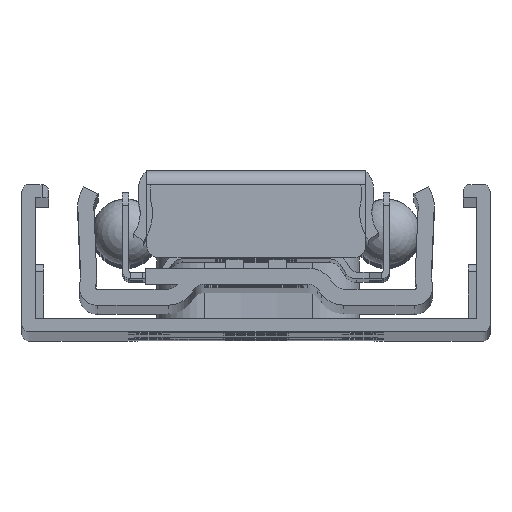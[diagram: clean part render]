
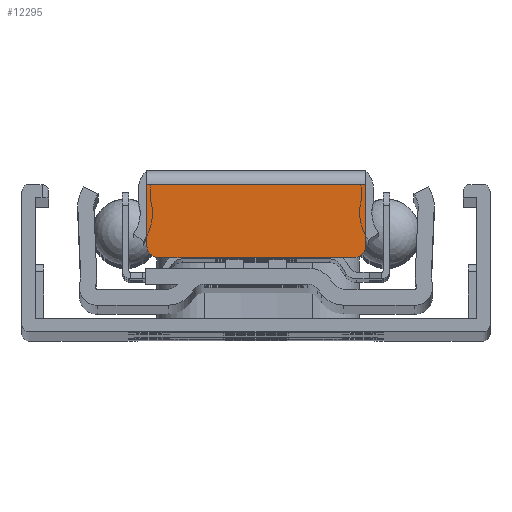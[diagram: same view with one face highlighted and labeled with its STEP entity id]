
A CAD part, top view. The second image highlights one B-rep face of the part: STEP entity #12295.
In plain terms, the highlighted planar face has unit normal (0, 0, 1).
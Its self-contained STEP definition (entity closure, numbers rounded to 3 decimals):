
#663=PLANE('',#13537);
#1267=FACE_OUTER_BOUND('',#2008,.T.);
#2008=EDGE_LOOP('',(#11294,#11295,#11296,#11297,#11298,#11299));
#3199=LINE('',#20978,#4394);
#3200=LINE('',#20981,#4395);
#3201=LINE('',#20985,#4396);
#3202=LINE('',#20988,#4397);
#4394=VECTOR('',#17063,10.);
#4395=VECTOR('',#17066,10.);
#4396=VECTOR('',#17069,10.);
#4397=VECTOR('',#17072,10.);
#4999=CIRCLE('',#13538,1.);
#5000=CIRCLE('',#13539,1.);
#6149=VERTEX_POINT('',#20974);
#6150=VERTEX_POINT('',#20976);
#6151=VERTEX_POINT('',#20980);
#6152=VERTEX_POINT('',#20982);
#6153=VERTEX_POINT('',#20984);
#6154=VERTEX_POINT('',#20986);
#7883=EDGE_CURVE('',#6150,#6149,#3199,.T.);
#7884=EDGE_CURVE('',#6150,#6151,#3200,.T.);
#7885=EDGE_CURVE('',#6152,#6151,#4999,.T.);
#7886=EDGE_CURVE('',#6152,#6153,#3201,.T.);
#7887=EDGE_CURVE('',#6154,#6153,#5000,.T.);
#7888=EDGE_CURVE('',#6149,#6154,#3202,.T.);
#11294=ORIENTED_EDGE('',*,*,#7883,.F.);
#11295=ORIENTED_EDGE('',*,*,#7884,.T.);
#11296=ORIENTED_EDGE('',*,*,#7885,.F.);
#11297=ORIENTED_EDGE('',*,*,#7886,.T.);
#11298=ORIENTED_EDGE('',*,*,#7887,.F.);
#11299=ORIENTED_EDGE('',*,*,#7888,.F.);
#12295=ADVANCED_FACE('',(#1267),#663,.T.);
#13537=AXIS2_PLACEMENT_3D('',#20979,#17064,#17065);
#13538=AXIS2_PLACEMENT_3D('',#20983,#17067,#17068);
#13539=AXIS2_PLACEMENT_3D('',#20987,#17070,#17071);
#17063=DIRECTION('',(-1.,0.,0.));
#17064=DIRECTION('center_axis',(0.,0.,1.));
#17065=DIRECTION('ref_axis',(1.,0.,0.));
#17066=DIRECTION('',(0.,1.,0.));
#17067=DIRECTION('center_axis',(0.,0.,-1.));
#17068=DIRECTION('ref_axis',(0.707,0.707,0.));
#17069=DIRECTION('',(-1.,0.,0.));
#17070=DIRECTION('center_axis',(0.,0.,-1.));
#17071=DIRECTION('ref_axis',(-0.707,0.707,0.));
#17072=DIRECTION('',(0.,1.,0.));
#20974=CARTESIAN_POINT('',(5.11,-4.766,399.));
#20976=CARTESIAN_POINT('',(21.512,-4.766,399.));
#20978=CARTESIAN_POINT('',(17.427,-4.766,399.));
#20979=CARTESIAN_POINT('Origin',(21.512,-5.766,399.));
#20980=CARTESIAN_POINT('',(21.512,-0.266,399.));
#20981=CARTESIAN_POINT('',(21.512,-5.766,399.));
#20982=CARTESIAN_POINT('',(20.512,0.734,399.));
#20983=CARTESIAN_POINT('Origin',(20.512,-0.266,399.));
#20984=CARTESIAN_POINT('',(6.11,0.734,399.));
#20985=CARTESIAN_POINT('',(21.512,0.734,399.));
#20986=CARTESIAN_POINT('',(5.11,-0.266,399.));
#20987=CARTESIAN_POINT('Origin',(6.11,-0.266,399.));
#20988=CARTESIAN_POINT('',(5.11,-5.766,399.));
